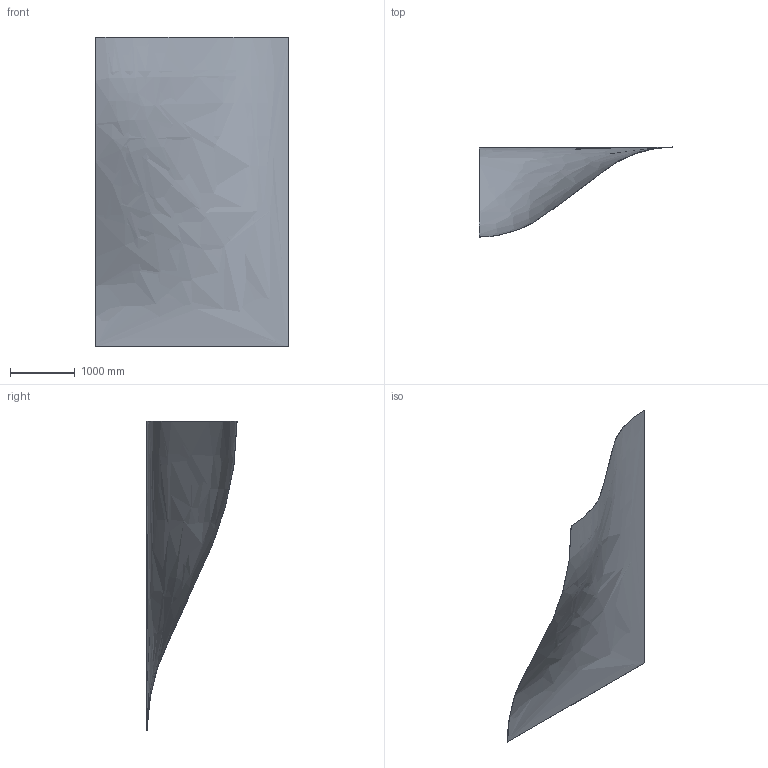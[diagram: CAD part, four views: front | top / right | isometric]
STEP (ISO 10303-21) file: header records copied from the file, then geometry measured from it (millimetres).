
FILE_DESCRIPTION (( 'STEP AP203' ), '1' );
FILE_NAME ('裚樥罻 1 旆.41.01.01.001_2.STEP', '2026-06-23T06:40:40', ( '' ), ( '' ), 'SwSTEP 2.0', 'SolidWorks 2022', '' );
FILE_SCHEMA (( 'CONFIG_CONTROL_DESIGN' ));
Length unit declared in the file: millimetre
Products named in the file (1): Ячейка 1 СП.41.01.01.001_2
Bounding box: 3000 x 1397 x 4800 mm (x, y, z)
Volume: 34668562.6 mm3; surface area: 30945034.6 mm2
Topology: 1 solids, 1 shells, 6 faces, 12 edges, 8 vertices
Faces by surface type: plane 3, bspline 3
Entity records: 6845 total; most frequent: CARTESIAN_POINT 6672, ORIENTED_EDGE 24, B_SPLINE_CURVE_WITH_KNOTS 12, EDGE_CURVE 12, VERTEX_POINT 8, PERSON_AND_ORGANIZATION 8, DIRECTION 8, ADVANCED_FACE 6
